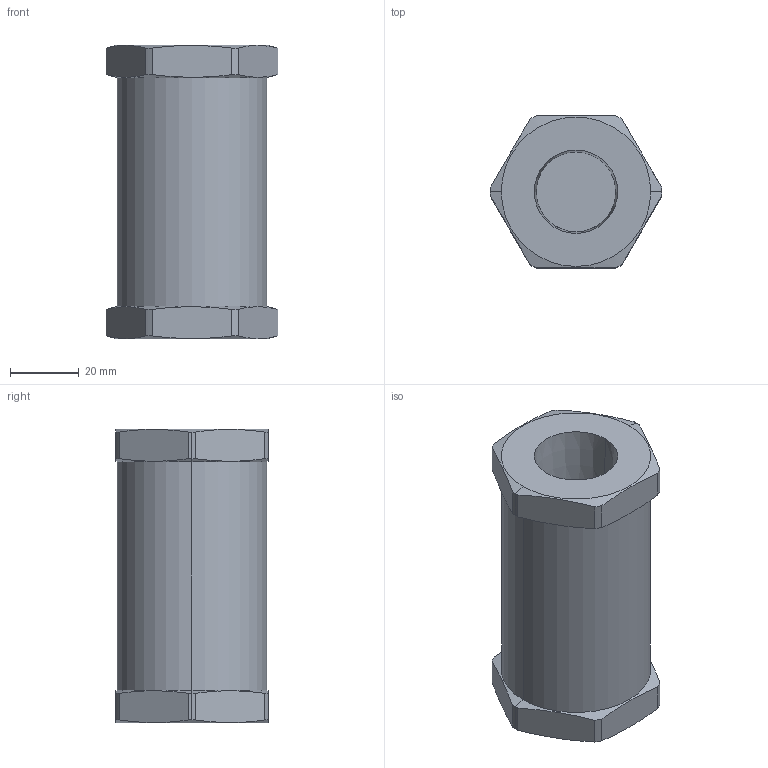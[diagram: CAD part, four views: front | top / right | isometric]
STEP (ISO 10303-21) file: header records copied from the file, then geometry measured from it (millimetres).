
FILE_DESCRIPTION (( 'STEP AP203' ), '1' );
FILE_NAME ('CV-750B-__-__.STEP', '2011-11-04T21:12:23', ( 'Tim' ), ( 'Microsoft' ), 'SwSTEP 2.0', 'SolidWorks 2011', '' );
FILE_SCHEMA (( 'CONFIG_CONTROL_DESIGN' ));
Length unit declared in the file: inch
Products named in the file (1): CV-750B-__-__
Bounding box: 50.12 x 44.45 x 85.72 mm (x, y, z)
Volume: 116294.6 mm3; surface area: 18143.7 mm2
Topology: 1 solids, 1 shells, 44 faces, 112 edges, 72 vertices
Faces by surface type: cylinder 16, plane 16, cone 12
Entity records: 1571 total; most frequent: CARTESIAN_POINT 429, DIRECTION 226, ORIENTED_EDGE 224, EDGE_CURVE 112, AXIS2_PLACEMENT_3D 93, VERTEX_POINT 72, CIRCLE 48, EDGE_LOOP 46
